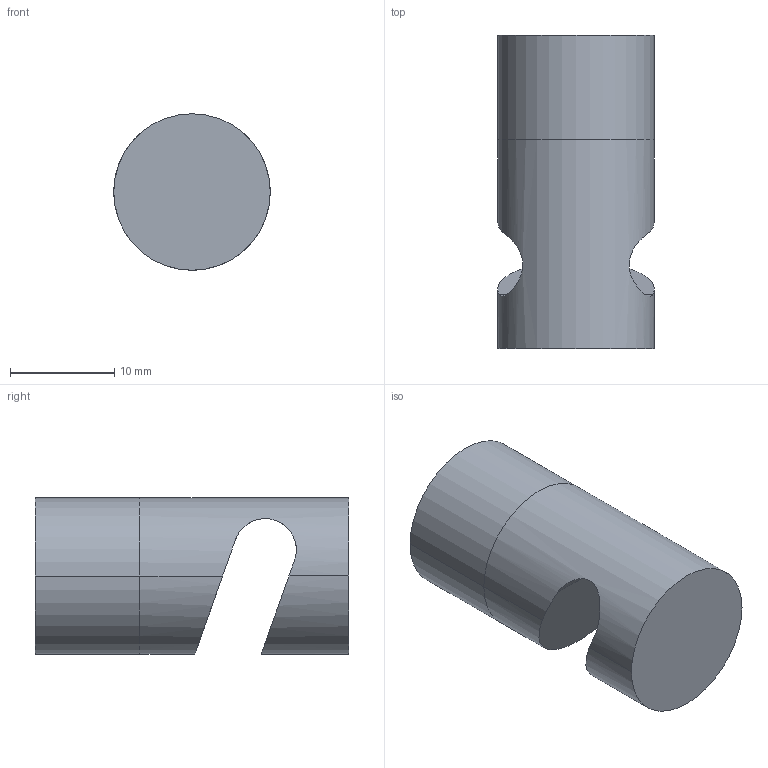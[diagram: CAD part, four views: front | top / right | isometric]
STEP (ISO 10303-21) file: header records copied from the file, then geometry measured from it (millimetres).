
FILE_DESCRIPTION((''),'2;1');
FILE_NAME('CABLE-CONNECTOR_ASM','2022-11-09T13:57:08',('Administrator'),(''),'CREO PARAMETRIC BY PTC INC, 2020053','CREO PARAMETRIC BY PTC INC, 2020053','');
FILE_SCHEMA(('CONFIG_CONTROL_DESIGN','SHAPE_APPEARANCE_LAYERS_GROUPS'));
Length unit declared in the file: millimetre
Products named in the file (3): CONNECOTR-LOWER; PRT0002; CABLE-CONNECTOR_ASM
Assembly tree (2 placements, depth 2):
  CABLE-CONNECTOR_ASM
    CONNECOTR-LOWER
    PRT0002
Bounding box: 15 x 30 x 15 mm (x, y, z)
Volume: 4288 mm3; surface area: 2629.9 mm2
Topology: 2 solids, 2 shells, 20 faces, 62 edges, 52 vertices
Faces by surface type: cylinder 12, plane 8
Entity records: 1125 total; most frequent: CARTESIAN_POINT 208, DIRECTION 149, ORIENTED_EDGE 84, AXIS2_PLACEMENT_3D 64, PRESENTATION_STYLE_ASSIGNMENT 43, STYLED_ITEM 43, EDGE_CURVE 42, CIRCLE 33
